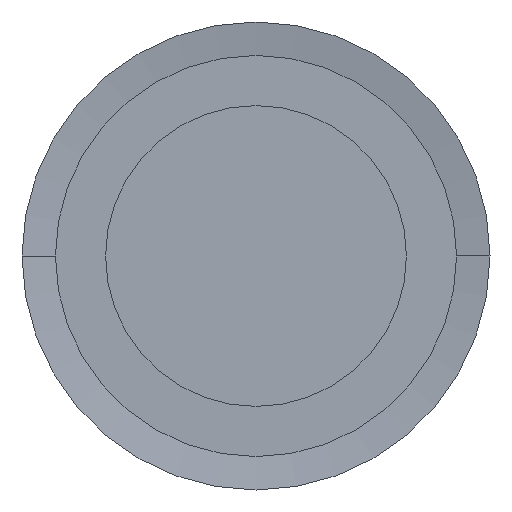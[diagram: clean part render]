
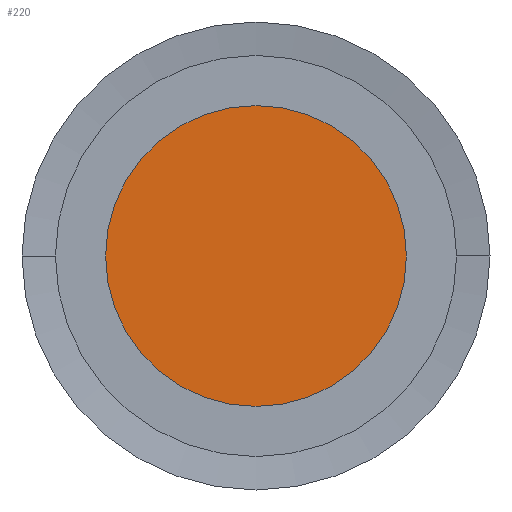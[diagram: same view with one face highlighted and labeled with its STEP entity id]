
A CAD part, left-side view. The second image highlights one B-rep face of the part: STEP entity #220.
In plain terms, the highlighted planar face has unit normal (-1, 0, 0).
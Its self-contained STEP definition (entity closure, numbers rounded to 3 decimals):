
#220 = ADVANCED_FACE( '', ( #517 ), #518, .T. );
#517 = FACE_OUTER_BOUND( '', #814, .T. );
#518 = PLANE( '', #815 );
#814 = EDGE_LOOP( '', ( #2067, #2068 ) );
#815 = AXIS2_PLACEMENT_3D( '', #2069, #2070, #2071 );
#2067 = ORIENTED_EDGE( '', *, *, #2075, .T. );
#2068 = ORIENTED_EDGE( '', *, *, #2480, .T. );
#2069 = CARTESIAN_POINT( '', ( 0., 4.5, 0. ) );
#2070 = DIRECTION( '', ( -1., 0., 0. ) );
#2071 = DIRECTION( '', ( 0., 1., 0. ) );
#2075 = EDGE_CURVE( '', #2482, #2486, #2488, .T. );
#2480 = EDGE_CURVE( '', #2486, #2482, #3159, .T. );
#2482 = VERTEX_POINT( '', #3161 );
#2486 = VERTEX_POINT( '', #3166 );
#2488 = CIRCLE( '', #3169, 9. );
#3159 = CIRCLE( '', #4067, 9. );
#3161 = CARTESIAN_POINT( '', ( 0., 9., 0. ) );
#3166 = CARTESIAN_POINT( '', ( 0., -9., 0. ) );
#3169 = AXIS2_PLACEMENT_3D( '', #4073, #4074, #4075 );
#4067 = AXIS2_PLACEMENT_3D( '', #4834, #4835, #4836 );
#4073 = CARTESIAN_POINT( '', ( 0., 0., 0. ) );
#4074 = DIRECTION( '', ( -1., 0., 0. ) );
#4075 = DIRECTION( '', ( 0., 1., 0. ) );
#4834 = CARTESIAN_POINT( '', ( 0., 0., 0. ) );
#4835 = DIRECTION( '', ( -1., 0., 0. ) );
#4836 = DIRECTION( '', ( 0., 1., 0. ) );
